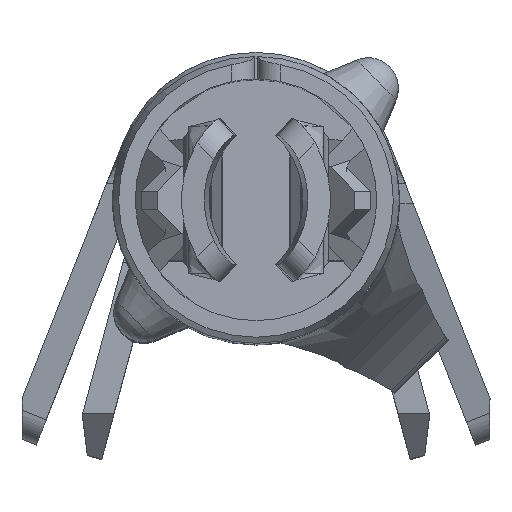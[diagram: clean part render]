
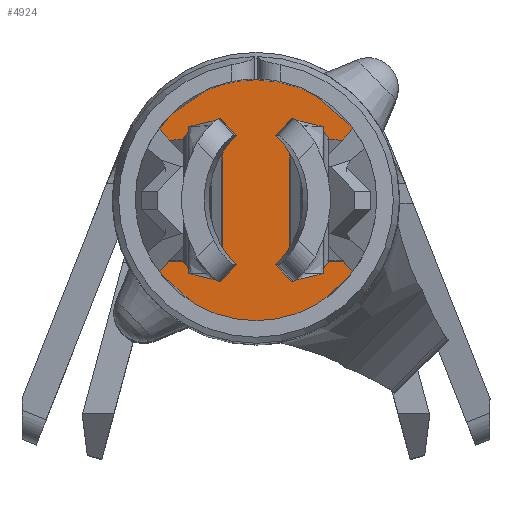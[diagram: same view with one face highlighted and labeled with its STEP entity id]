
A CAD part, top view. The second image highlights one B-rep face of the part: STEP entity #4924.
In plain terms, the highlighted planar face has unit normal (0, 0, 1).
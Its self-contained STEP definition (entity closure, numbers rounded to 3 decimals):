
#118=CARTESIAN_POINT('',(0.789,0.529,3.56));
#306=CARTESIAN_POINT('',(-0.642,-0.7,3.56));
#316=CARTESIAN_POINT('',(0.403,0.691,3.56));
#335=CARTESIAN_POINT('',(-0.393,-0.697,3.56));
#341=DIRECTION('',(1.,0.012,0.));
#342=VECTOR('',#341,0.238);
#343=CARTESIAN_POINT('',(0.441,-0.667,3.56));
#344=LINE('',#343,#342);
#345=CARTESIAN_POINT('',(0.,0.,3.56));
#346=DIRECTION('',(0.,0.,1.));
#347=DIRECTION('',(-0.491,-0.871,0.));
#348=AXIS2_PLACEMENT_3D('',#345,#346,#347);
#350=DIRECTION('',(1.,0.012,0.));
#351=VECTOR('',#350,0.25);
#352=CARTESIAN_POINT('',(-0.642,-0.7,3.56));
#353=LINE('',#352,#351);
#354=CARTESIAN_POINT('',(0.,0.,3.56));
#355=DIRECTION('',(0.,0.,1.));
#356=DIRECTION('',(-0.831,-0.557,0.));
#357=AXIS2_PLACEMENT_3D('',#354,#355,#356);
#359=DIRECTION('',(0.,-1.,0.));
#360=VECTOR('',#359,0.8);
#361=CARTESIAN_POINT('',(-0.434,0.4,3.56));
#362=LINE('',#361,#360);
#363=DIRECTION('',(1.,0.,0.));
#364=VECTOR('',#363,0.253);
#365=CARTESIAN_POINT('',(-0.687,0.4,3.56));
#366=LINE('',#365,#364);
#367=CARTESIAN_POINT('',(0.,0.,3.56));
#368=DIRECTION('',(0.,0.,1.));
#369=DIRECTION('',(-0.648,0.762,0.));
#370=AXIS2_PLACEMENT_3D('',#367,#368,#369);
#372=DIRECTION('',(-1.,-0.012,0.));
#373=VECTOR('',#372,0.282);
#374=CARTESIAN_POINT('',(-0.334,0.727,3.56));
#375=LINE('',#374,#373);
#376=CARTESIAN_POINT('',(0.,0.,3.56));
#377=DIRECTION('',(0.,0.,1.));
#378=DIRECTION('',(-0.012,1.,0.));
#379=AXIS2_PLACEMENT_3D('',#376,#377,#378);
#381=CARTESIAN_POINT('',(0.,0.,3.56));
#382=DIRECTION('',(0.,0.,1.));
#383=DIRECTION('',(0.012,1.,0.));
#384=AXIS2_PLACEMENT_3D('',#381,#382,#383);
#386=CARTESIAN_POINT('',(0.,0.,3.56));
#387=DIRECTION('',(0.,0.,1.));
#388=DIRECTION('',(0.504,0.864,0.));
#389=AXIS2_PLACEMENT_3D('',#386,#387,#388);
#391=DIRECTION('',(-1.,-0.012,0.));
#392=VECTOR('',#391,0.246);
#393=CARTESIAN_POINT('',(0.649,0.694,3.56));
#394=LINE('',#393,#392);
#395=CARTESIAN_POINT('',(0.,0.,3.56));
#396=DIRECTION('',(0.,0.,1.));
#397=DIRECTION('',(0.831,0.557,0.));
#398=AXIS2_PLACEMENT_3D('',#395,#396,#397);
#400=DIRECTION('',(0.999,0.038,0.));
#401=VECTOR('',#400,0.102);
#402=CARTESIAN_POINT('',(0.687,0.525,3.56));
#403=LINE('',#402,#401);
#404=DIRECTION('',(-1.,0.,0.));
#405=VECTOR('',#404,0.253);
#406=CARTESIAN_POINT('',(0.687,-0.4,3.56));
#407=LINE('',#406,#405);
#408=DIRECTION('',(-0.999,0.038,0.));
#409=VECTOR('',#408,0.102);
#410=CARTESIAN_POINT('',(0.789,-0.529,3.56));
#411=LINE('',#410,#409);
#412=CARTESIAN_POINT('',(0.,0.,3.56));
#413=DIRECTION('',(0.,0.,1.));
#414=DIRECTION('',(0.715,-0.699,0.));
#415=AXIS2_PLACEMENT_3D('',#412,#413,#414);
#465=DIRECTION('',(0.999,0.038,0.));
#466=VECTOR('',#465,0.102);
#467=CARTESIAN_POINT('',(-0.789,-0.529,3.56));
#468=LINE('',#467,#466);
#486=DIRECTION('',(0.,1.,0.));
#487=VECTOR('',#486,0.125);
#488=CARTESIAN_POINT('',(-0.687,-0.525,3.56));
#489=LINE('',#488,#487);
#507=DIRECTION('',(1.,0.,0.));
#508=VECTOR('',#507,0.253);
#509=CARTESIAN_POINT('',(-0.687,-0.4,3.56));
#510=LINE('',#509,#508);
#646=DIRECTION('',(-0.999,0.038,0.));
#647=VECTOR('',#646,0.102);
#648=CARTESIAN_POINT('',(-0.687,0.525,3.56));
#649=LINE('',#648,#647);
#667=DIRECTION('',(0.,1.,0.));
#668=VECTOR('',#667,0.125);
#669=CARTESIAN_POINT('',(-0.687,0.4,3.56));
#670=LINE('',#669,#668);
#852=CARTESIAN_POINT('',(-0.615,0.724,3.56));
#899=DIRECTION('',(0.,-1.,0.));
#900=VECTOR('',#899,0.125);
#901=CARTESIAN_POINT('',(0.687,0.525,3.56));
#902=LINE('',#901,#900);
#932=DIRECTION('',(-1.,0.,0.));
#933=VECTOR('',#932,0.253);
#934=CARTESIAN_POINT('',(0.687,0.4,3.56));
#935=LINE('',#934,#933);
#1006=DIRECTION('',(0.,-1.,0.));
#1007=VECTOR('',#1006,0.125);
#1008=CARTESIAN_POINT('',(0.687,-0.4,3.56));
#1009=LINE('',#1008,#1007);
#1112=DIRECTION('',(0.,-1.,0.));
#1113=VECTOR('',#1112,0.8);
#1114=CARTESIAN_POINT('',(0.434,0.4,3.56));
#1115=LINE('',#1114,#1113);
#3698=CARTESIAN_POINT('',(0.441,-0.667,3.56));
#3699=CARTESIAN_POINT('',(0.679,-0.664,3.56));
#3700=VERTEX_POINT('',#3698);
#3701=VERTEX_POINT('',#3699);
#3729=VERTEX_POINT('',#316);
#3730=CARTESIAN_POINT('',(0.01,0.8,3.56));
#3731=VERTEX_POINT('',#3730);
#3732=CARTESIAN_POINT('',(-0.01,0.8,3.56));
#3733=VERTEX_POINT('',#3732);
#3734=CARTESIAN_POINT('',(-0.334,0.727,3.56));
#3735=VERTEX_POINT('',#3734);
#3737=VERTEX_POINT('',#335);
#3752=VERTEX_POINT('',#306);
#3753=CARTESIAN_POINT('',(0.649,0.694,3.56));
#3754=VERTEX_POINT('',#3753);
#3788=VERTEX_POINT('',#118);
#3809=VERTEX_POINT('',#852);
#3810=CARTESIAN_POINT('',(-0.789,0.529,3.56));
#3811=VERTEX_POINT('',#3810);
#3839=CARTESIAN_POINT('',(-0.789,-0.529,3.56));
#3840=VERTEX_POINT('',#3839);
#3841=CARTESIAN_POINT('',(-0.687,-0.525,3.56));
#3842=VERTEX_POINT('',#3841);
#3843=CARTESIAN_POINT('',(-0.687,-0.4,3.56));
#3844=VERTEX_POINT('',#3843);
#3845=CARTESIAN_POINT('',(-0.434,-0.4,3.56));
#3846=VERTEX_POINT('',#3845);
#3847=CARTESIAN_POINT('',(-0.434,0.4,3.56));
#3848=VERTEX_POINT('',#3847);
#3849=CARTESIAN_POINT('',(-0.687,0.4,3.56));
#3850=VERTEX_POINT('',#3849);
#3851=CARTESIAN_POINT('',(-0.687,0.525,3.56));
#3852=VERTEX_POINT('',#3851);
#3853=CARTESIAN_POINT('',(0.687,0.525,3.56));
#3854=VERTEX_POINT('',#3853);
#3855=CARTESIAN_POINT('',(0.687,0.4,3.56));
#3856=VERTEX_POINT('',#3855);
#3857=CARTESIAN_POINT('',(0.434,0.4,3.56));
#3858=VERTEX_POINT('',#3857);
#3859=CARTESIAN_POINT('',(0.434,-0.4,3.56));
#3860=VERTEX_POINT('',#3859);
#3861=CARTESIAN_POINT('',(0.687,-0.4,3.56));
#3862=VERTEX_POINT('',#3861);
#3863=CARTESIAN_POINT('',(0.687,-0.525,3.56));
#3864=VERTEX_POINT('',#3863);
#3865=CARTESIAN_POINT('',(0.789,-0.529,3.56));
#3866=VERTEX_POINT('',#3865);
#4874=CARTESIAN_POINT('',(0.,-0.875,3.56));
#4875=DIRECTION('',(0.,0.,1.));
#4876=DIRECTION('',(1.,0.,0.));
#4877=AXIS2_PLACEMENT_3D('',#4874,#4875,#4876);
#4878=PLANE('',#4877);
#4880=ORIENTED_EDGE('',*,*,#4879,.F.);
#4881=ORIENTED_EDGE('',*,*,#4841,.F.);
#4882=ORIENTED_EDGE('',*,*,#4831,.F.);
#4883=ORIENTED_EDGE('',*,*,#4792,.F.);
#4885=ORIENTED_EDGE('',*,*,#4884,.T.);
#4887=ORIENTED_EDGE('',*,*,#4886,.T.);
#4889=ORIENTED_EDGE('',*,*,#4888,.T.);
#4891=ORIENTED_EDGE('',*,*,#4890,.F.);
#4893=ORIENTED_EDGE('',*,*,#4892,.F.);
#4895=ORIENTED_EDGE('',*,*,#4894,.T.);
#4897=ORIENTED_EDGE('',*,*,#4896,.T.);
#4898=ORIENTED_EDGE('',*,*,#4660,.F.);
#4900=ORIENTED_EDGE('',*,*,#4899,.F.);
#4901=ORIENTED_EDGE('',*,*,#4860,.F.);
#4902=ORIENTED_EDGE('',*,*,#4548,.F.);
#4903=ORIENTED_EDGE('',*,*,#4851,.F.);
#4905=ORIENTED_EDGE('',*,*,#4904,.F.);
#4906=ORIENTED_EDGE('',*,*,#4614,.F.);
#4908=ORIENTED_EDGE('',*,*,#4907,.F.);
#4910=ORIENTED_EDGE('',*,*,#4909,.T.);
#4912=ORIENTED_EDGE('',*,*,#4911,.T.);
#4914=ORIENTED_EDGE('',*,*,#4913,.T.);
#4916=ORIENTED_EDGE('',*,*,#4915,.F.);
#4918=ORIENTED_EDGE('',*,*,#4917,.T.);
#4920=ORIENTED_EDGE('',*,*,#4919,.F.);
#4921=ORIENTED_EDGE('',*,*,#4760,.F.);
#4922=EDGE_LOOP('',(#4880,#4881,#4882,#4883,#4885,#4887,#4889,#4891,#4893,#4895,
#4897,#4898,#4900,#4901,#4902,#4903,#4905,#4906,#4908,#4910,#4912,#4914,#4916,
#4918,#4920,#4921));
#4923=FACE_OUTER_BOUND('',#4922,.F.);
#4924=ADVANCED_FACE('',(#4923),#4878,.T.);
#349=CIRCLE('',#348,0.8);
#358=CIRCLE('',#357,0.95);
#371=CIRCLE('',#370,0.95);
#380=CIRCLE('',#379,0.8);
#385=CIRCLE('',#384,0.8);
#390=CIRCLE('',#389,0.8);
#399=CIRCLE('',#398,0.95);
#416=CIRCLE('',#415,0.95);
#4548=EDGE_CURVE('',#3731,#3733,#385,.T.);
#4614=EDGE_CURVE('',#3788,#3754,#399,.T.);
#4660=EDGE_CURVE('',#3809,#3811,#371,.T.);
#4760=EDGE_CURVE('',#3701,#3866,#416,.T.);
#4792=EDGE_CURVE('',#3840,#3752,#358,.T.);
#4831=EDGE_CURVE('',#3752,#3737,#353,.T.);
#4841=EDGE_CURVE('',#3737,#3700,#349,.T.);
#4851=EDGE_CURVE('',#3729,#3731,#390,.T.);
#4860=EDGE_CURVE('',#3733,#3735,#380,.T.);
#4879=EDGE_CURVE('',#3700,#3701,#344,.T.);
#4884=EDGE_CURVE('',#3840,#3842,#468,.T.);
#4886=EDGE_CURVE('',#3842,#3844,#489,.T.);
#4888=EDGE_CURVE('',#3844,#3846,#510,.T.);
#4890=EDGE_CURVE('',#3848,#3846,#362,.T.);
#4892=EDGE_CURVE('',#3850,#3848,#366,.T.);
#4894=EDGE_CURVE('',#3850,#3852,#670,.T.);
#4896=EDGE_CURVE('',#3852,#3811,#649,.T.);
#4899=EDGE_CURVE('',#3735,#3809,#375,.T.);
#4904=EDGE_CURVE('',#3754,#3729,#394,.T.);
#4907=EDGE_CURVE('',#3854,#3788,#403,.T.);
#4909=EDGE_CURVE('',#3854,#3856,#902,.T.);
#4911=EDGE_CURVE('',#3856,#3858,#935,.T.);
#4913=EDGE_CURVE('',#3858,#3860,#1115,.T.);
#4915=EDGE_CURVE('',#3862,#3860,#407,.T.);
#4917=EDGE_CURVE('',#3862,#3864,#1009,.T.);
#4919=EDGE_CURVE('',#3866,#3864,#411,.T.);
